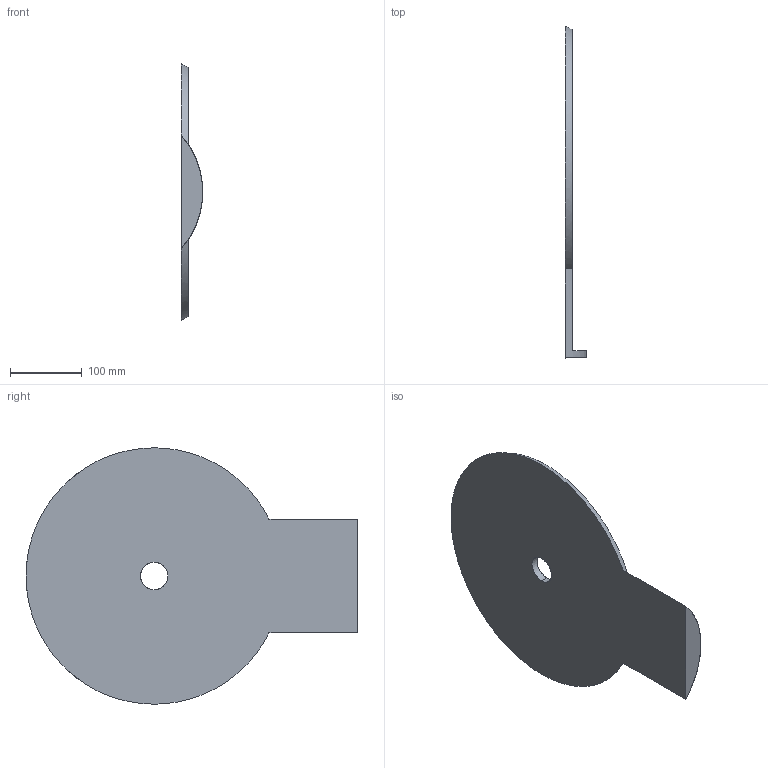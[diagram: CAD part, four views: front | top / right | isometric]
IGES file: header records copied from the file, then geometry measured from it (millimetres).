
Start section: SolidWorks IGES file using analytic representation for surfaces
Global section: file name: C:\Users\Martin\Desktop\Camera Turret\Camera Turret Support Side.IGS; native system: SolidWorks 2018; preprocessor: SolidWorks 2018; author: Martin; date: 180417.081527; units: millimetre
Bounding box: 30 x 462.61 x 357.13 mm (x, y, z)
Surface area: 246401.9 mm2 (no closed solid volume)
Topology: 0 solids, 0 shells, 8 faces, 386 edges, 386 vertices
Faces by surface type: revolution 4, bspline 4
